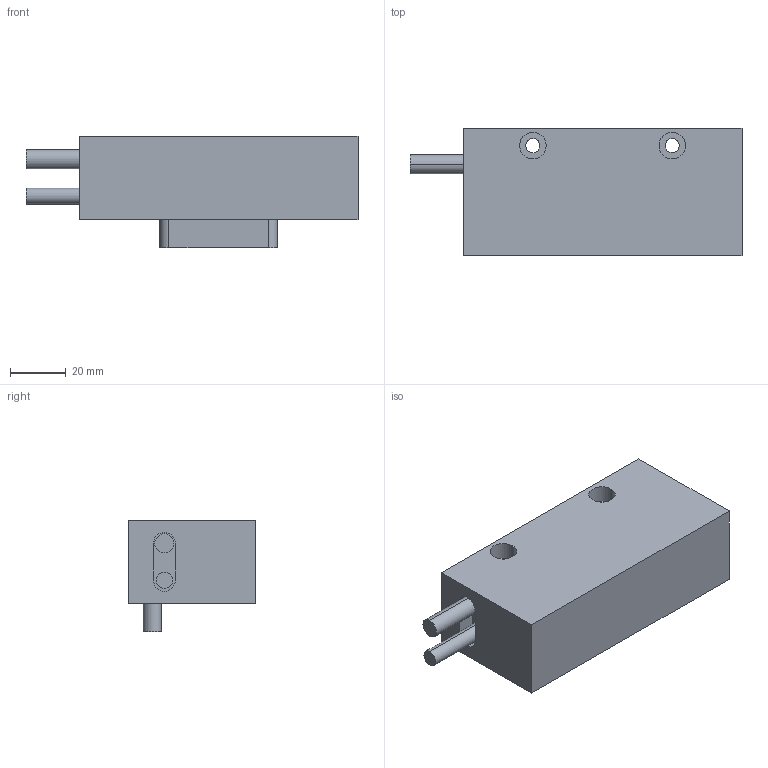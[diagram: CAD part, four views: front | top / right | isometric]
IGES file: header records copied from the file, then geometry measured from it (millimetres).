
Global section: file name: No Iges File Name specified; native system: AutoDesk Inventor R12.0; preprocessor: AutoDesk Inventor Iges Exporter R12.0; date: 20081121.155253; units: inch
Bounding box: 119.05 x 45.72 x 40.16 mm (x, y, z)
Volume: 137004.5 mm3; surface area: 22951 mm2
Topology: 1 solids, 1 shells, 64 faces, 152 edges, 88 vertices
Faces by surface type: bspline 42, plane 14, cylinder 6, revolution 2
